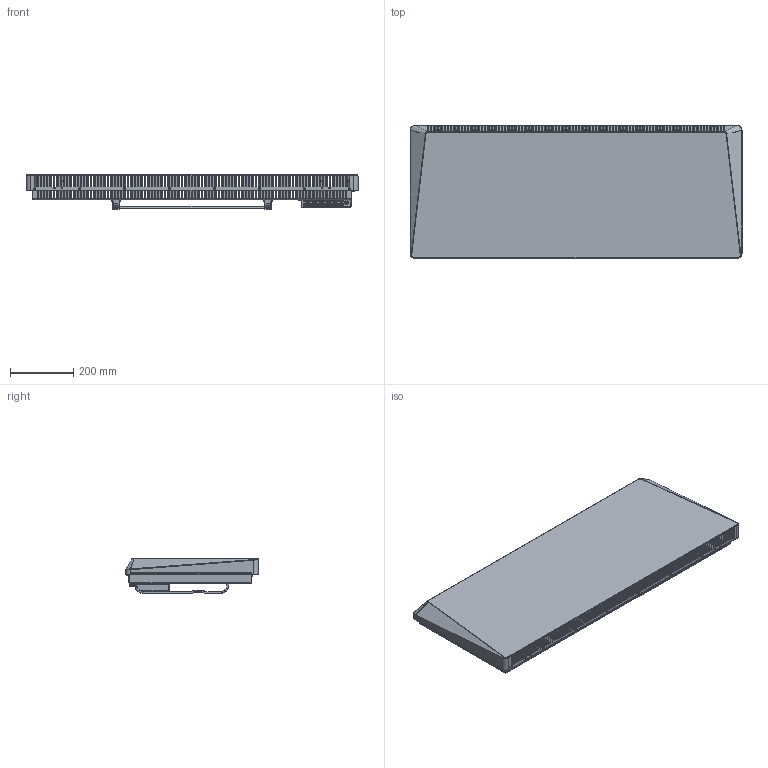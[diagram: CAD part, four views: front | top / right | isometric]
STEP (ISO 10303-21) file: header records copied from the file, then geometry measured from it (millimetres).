
FILE_DESCRIPTION(('FreeCAD Model'),'2;1');
FILE_NAME('Open CASCADE Shape Model','2026-06-11T10:38:50',(''),(''), 'Open CASCADE STEP processor 7.8','FreeCAD','Unknown');
FILE_SCHEMA(('AUTOMOTIVE_DESIGN { 1 0 10303 214 1 1 1 1 }'));
Length unit declared in the file: millimetre
Products named in the file (11): Unnamed; STE_POSTERIORE-2000W_ASM; STE_POSTERIORE_2000W; STE_GR-SCATOLA-COMANDI_ASM; STE_CORPO-SCATOLA-COMANDI; STE_SUPPORTO-PCB-COMMAND; STE_TASTIERA-ADESIVA; STE_FRONTALE_2000W; HCA10-SUPPORTO-MURALE_1500W_ASM; HCA10-M006_1500W; HCA10-M005-GUAQIANGZHIJIA_1
Assembly tree (11 placements, depth 3):
  Unnamed
    STE_POSTERIORE-2000W_ASM
      STE_POSTERIORE_2000W
    STE_GR-SCATOLA-COMANDI_ASM
      STE_CORPO-SCATOLA-COMANDI
      STE_SUPPORTO-PCB-COMMAND
      STE_TASTIERA-ADESIVA
    STE_FRONTALE_2000W
    HCA10-SUPPORTO-MURALE_1500W_ASM
      HCA10-M006_1500W
      HCA10-M005-GUAQIANGZHIJIA_1  x2
Bounding box: 1050 x 420 x 110.5 mm (x, y, z)
Volume: 882089.5 mm3; surface area: 2340664.2 mm2
Topology: 8 solids, 8 shells, 5487 faces, 15345 edges, 9489 vertices
Faces by surface type: plane 3456, cylinder 1270, bspline 306, cone 213, torus 186, sphere 56
Entity records: 186543 total; most frequent: CARTESIAN_POINT 50467, ORIENTED_EDGE 29598, DIRECTION 26136, EDGE_CURVE 14799, LINE 11150, VECTOR 11150, VERTEX_POINT 9175, AXIS2_PLACEMENT_3D 7493
